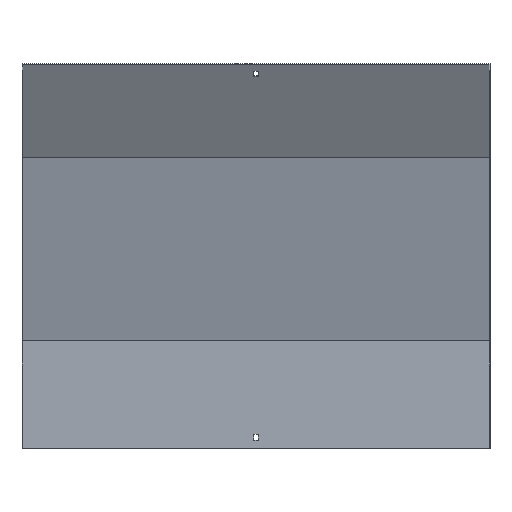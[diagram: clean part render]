
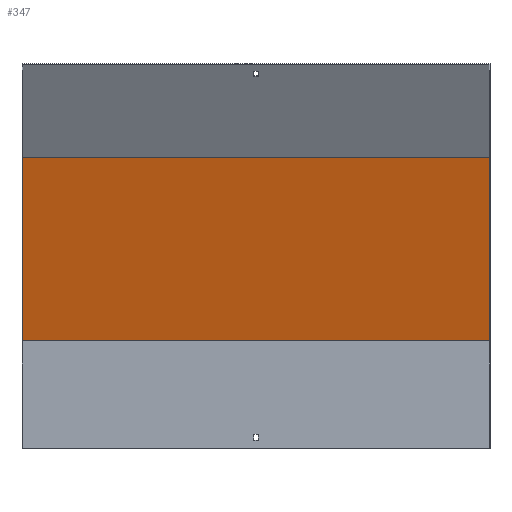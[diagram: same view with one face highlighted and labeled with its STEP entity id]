
A CAD part, front view. The second image highlights one B-rep face of the part: STEP entity #347.
In plain terms, the highlighted planar face has unit normal (0, -0.966, -0.259).
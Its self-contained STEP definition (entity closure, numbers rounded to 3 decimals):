
#5 = CARTESIAN_POINT ( 'NONE',  ( 351.5, 18.5, 162.436 ) ) ;
#7 = FACE_OUTER_BOUND ( 'NONE', #418, .T. ) ;
#12 = PLANE ( 'NONE',  #123 ) ;
#31 = VECTOR ( 'NONE', #440, 1000. ) ;
#47 = DIRECTION ( 'NONE',  ( 0., -0.259, 0.966 ) ) ;
#59 = DIRECTION ( 'NONE',  ( 0., -0.966, -0.259 ) ) ;
#66 = CARTESIAN_POINT ( 'NONE',  ( -350., 18.5, 162.436 ) ) ;
#91 = CARTESIAN_POINT ( 'NONE',  ( 350., 57.87, 15.506 ) ) ;
#123 = AXIS2_PLACEMENT_3D ( 'NONE', #542, #59, #124 ) ;
#124 = DIRECTION ( 'NONE',  ( 0., 0.259, -0.966 ) ) ;
#148 = ORIENTED_EDGE ( 'NONE', *, *, #562, .F. ) ;
#190 = CARTESIAN_POINT ( 'NONE',  ( 350., -54.971, 436.634 ) ) ;
#222 = EDGE_CURVE ( 'NONE', #255, #276, #415, .T. ) ;
#227 = CARTESIAN_POINT ( 'NONE',  ( -350., 57.87, 15.506 ) ) ;
#251 = EDGE_CURVE ( 'NONE', #276, #393, #560, .T. ) ;
#255 = VERTEX_POINT ( 'NONE', #401 ) ;
#263 = DIRECTION ( 'NONE',  ( -1., 0., 0. ) ) ;
#276 = VERTEX_POINT ( 'NONE', #190 ) ;
#279 = ORIENTED_EDGE ( 'NONE', *, *, #222, .T. ) ;
#347 = ADVANCED_FACE ( 'NONE', ( #7 ), #12, .T. ) ;
#387 = LINE ( 'NONE', #5, #753 ) ;
#393 = VERTEX_POINT ( 'NONE', #649 ) ;
#396 = EDGE_CURVE ( 'NONE', #586, #393, #502, .T. ) ;
#401 = CARTESIAN_POINT ( 'NONE',  ( 350., 18.5, 162.436 ) ) ;
#415 = LINE ( 'NONE', #91, #419 ) ;
#418 = EDGE_LOOP ( 'NONE', ( #481, #148, #279, #781 ) ) ;
#419 = VECTOR ( 'NONE', #421, 1000. ) ;
#421 = DIRECTION ( 'NONE',  ( 0., -0.259, 0.966 ) ) ;
#440 = DIRECTION ( 'NONE',  ( -1., 0., 0. ) ) ;
#481 = ORIENTED_EDGE ( 'NONE', *, *, #396, .F. ) ;
#502 = LINE ( 'NONE', #227, #630 ) ;
#542 = CARTESIAN_POINT ( 'NONE',  ( 351.5, 17.87, 164.788 ) ) ;
#560 = LINE ( 'NONE', #653, #31 ) ;
#562 = EDGE_CURVE ( 'NONE', #255, #586, #387, .T. ) ;
#586 = VERTEX_POINT ( 'NONE', #66 ) ;
#630 = VECTOR ( 'NONE', #47, 1000. ) ;
#649 = CARTESIAN_POINT ( 'NONE',  ( -350., -54.971, 436.634 ) ) ;
#653 = CARTESIAN_POINT ( 'NONE',  ( 351.5, -54.971, 436.634 ) ) ;
#753 = VECTOR ( 'NONE', #263, 1000. ) ;
#781 = ORIENTED_EDGE ( 'NONE', *, *, #251, .T. ) ;
